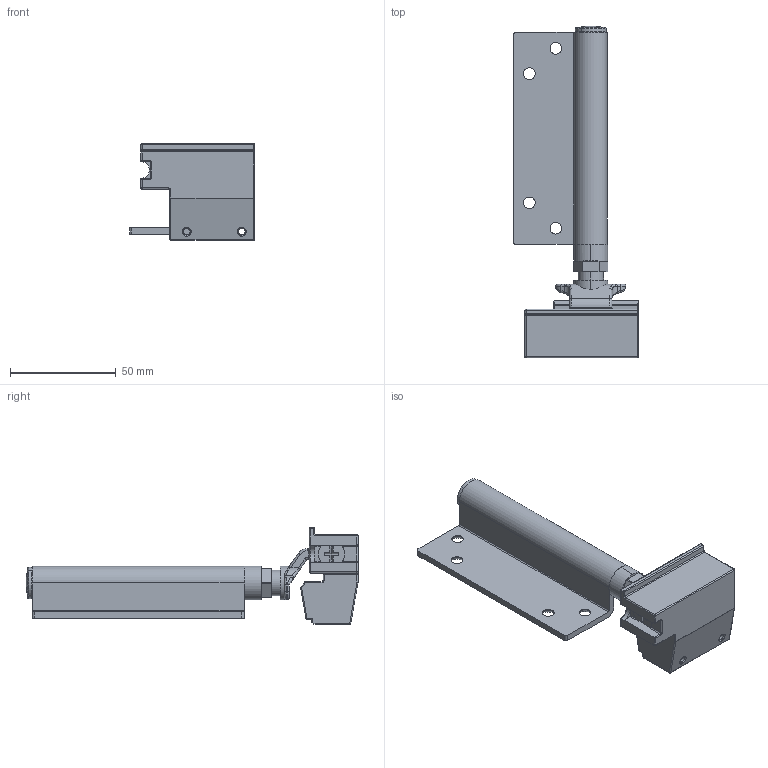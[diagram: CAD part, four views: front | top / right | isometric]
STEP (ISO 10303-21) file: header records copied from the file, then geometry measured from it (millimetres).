
FILE_DESCRIPTION (( 'STEP AP214' ), '1' );
FILE_NAME ('F3 Bottom Right Pivot - Open 05Jul2024.STEP', '2024-07-05T01:23:45', ( '' ), ( '' ), 'SwSTEP 2.0', 'SolidWorks 2023', '' );
FILE_SCHEMA (( 'AUTOMOTIVE_DESIGN' ));
Length unit declared in the file: millimetre
Products named in the file (4): F3 Bottom Right Pivot - Open 05Jul2024; Right pivot body^F3 Bottom Right Pivot; Offset Flap^F3 Bottom Right Pivot; Hinge Cap^F3 Bottom Right Pivot
Assembly tree (3 placements, depth 2):
  F3 Bottom Right Pivot - Open 05Jul2024
    Right pivot body^F3 Bottom Right Pivot
    Offset Flap^F3 Bottom Right Pivot
    Hinge Cap^F3 Bottom Right Pivot
Bounding box: 59 x 156.8 x 45.8 mm (x, y, z)
Volume: 78984.3 mm3; surface area: 31345.1 mm2
Topology: 3 solids, 3 shells, 303 faces, 722 edges, 407 vertices
Faces by surface type: cylinder 127, plane 79, torus 30, sphere 29, bspline 26, cone 12
Entity records: 10236 total; most frequent: CARTESIAN_POINT 3309, DIRECTION 1503, ORIENTED_EDGE 1398, EDGE_CURVE 699, AXIS2_PLACEMENT_3D 593, VERTEX_POINT 405, EDGE_LOOP 320, LINE 317
